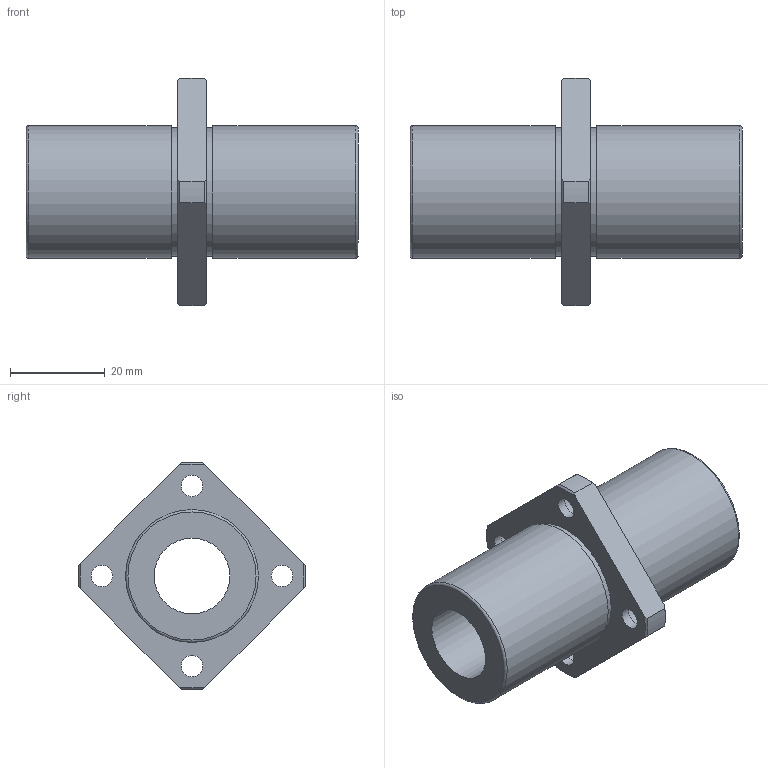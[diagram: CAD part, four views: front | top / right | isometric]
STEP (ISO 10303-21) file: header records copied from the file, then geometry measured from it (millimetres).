
FILE_DESCRIPTION(('STEP AP203'),'1');
FILE_NAME('//192.168.1.1/share/s-4 技術開発/s-4-4_CAD/s-4-4-3_見直し済み/002 修正済み/NFCS-VL/NFCS-VL_TOP/NFCS-16VLUU.step','2022-03-08T04:36:12',(' '),(' '),'Spatial InterOp 3D',' ',' ');
FILE_SCHEMA(('CONFIG_CONTROL_DESIGN'));
Length unit declared in the file: millimetre
Products named in the file (1): 1
Bounding box: 70 x 47.98 x 47.98 mm (x, y, z)
Volume: 32453.1 mm3; surface area: 12771.3 mm2
Topology: 1 solids, 1 shells, 41 faces, 97 edges, 66 vertices
Faces by surface type: cylinder 17, plane 14, cone 8, torus 2
Full cylindrical faces by diameter (mm): 4.5 x4, 7.5 x4, 16 x1, 27 x2, 28 x2
Entity records: 1158 total; most frequent: CARTESIAN_POINT 226, DIRECTION 188, ORIENTED_EDGE 152, AXIS2_PLACEMENT_3D 86, EDGE_CURVE 76, EDGE_LOOP 74, VERTEX_POINT 60, FACE_OUTER_BOUND 56
